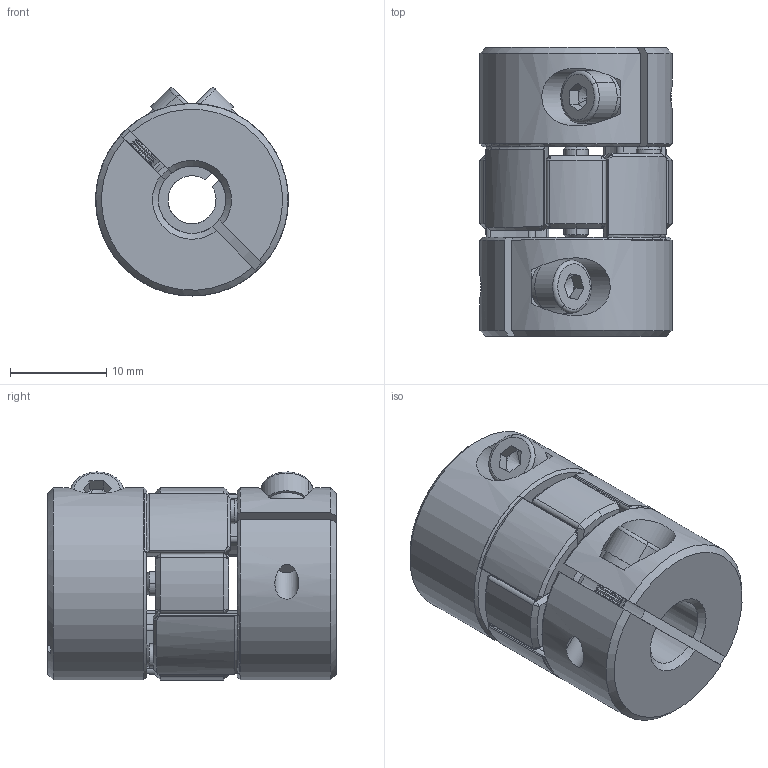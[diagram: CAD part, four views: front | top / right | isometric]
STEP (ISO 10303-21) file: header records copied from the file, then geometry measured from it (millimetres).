
FILE_DESCRIPTION (( 'STEP AP203' ), '1' );
FILE_NAME ('LF-B-D20L30-5-7.STEP', '2021-10-27T02:43:48', ( '' ), ( '' ), 'SwSTEP 2.0', 'SolidWorks 2018', '' );
FILE_SCHEMA (( 'CONFIG_CONTROL_DESIGN' ));
Length unit declared in the file: millimetre
Products named in the file (1): LF-B-D20L30-5-7
Bounding box: 20 x 30 x 21.62 mm (x, y, z)
Volume: 7721.3 mm3; surface area: 4886.9 mm2
Topology: 1 solids, 1 shells, 518 faces, 1253 edges, 691 vertices
Faces by surface type: cone 252, cylinder 192, plane 62, torus 12
Entity records: 15024 total; most frequent: CARTESIAN_POINT 2904, DIRECTION 2742, ORIENTED_EDGE 2426, EDGE_CURVE 1213, AXIS2_PLACEMENT_3D 1107, VERTEX_POINT 691, CIRCLE 588, EDGE_LOOP 546
